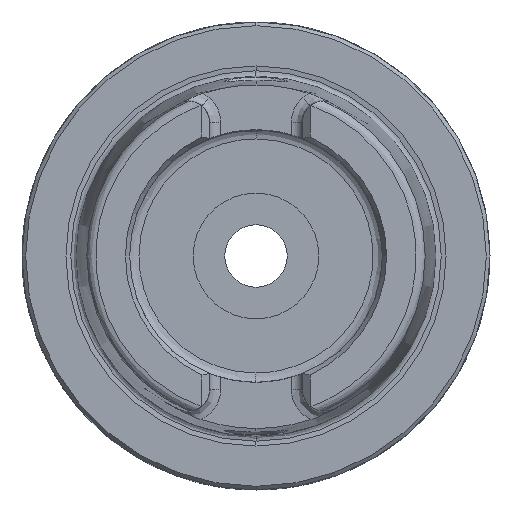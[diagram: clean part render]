
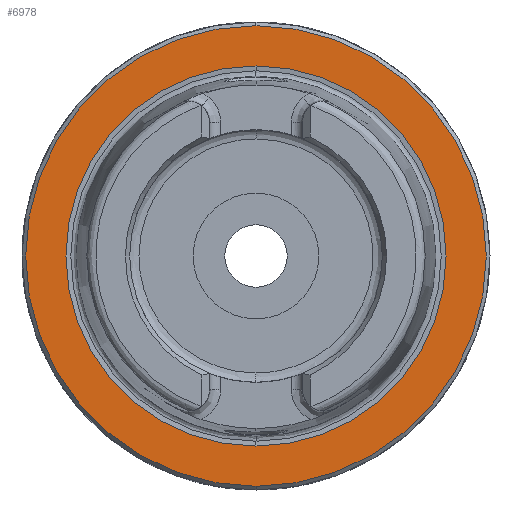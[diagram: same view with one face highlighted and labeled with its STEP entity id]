
A CAD part, left-side view. The second image highlights one B-rep face of the part: STEP entity #6978.
In plain terms, the highlighted planar face has unit normal (-1, 0, 0).
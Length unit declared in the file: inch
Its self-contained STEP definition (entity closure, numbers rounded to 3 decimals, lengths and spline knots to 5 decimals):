
#297 = DIRECTION ( 'NONE',  ( 0., 0., -1. ) ) ;
#309 = VERTEX_POINT ( 'NONE', #1434 ) ;
#518 = DIRECTION ( 'NONE',  ( 0., 0., 1. ) ) ;
#583 = VERTEX_POINT ( 'NONE', #7700 ) ;
#829 = EDGE_LOOP ( 'NONE', ( #6043, #7931 ) ) ;
#1434 = CARTESIAN_POINT ( 'NONE',  ( 0., 0., -1.22047 ) ) ;
#1543 = CARTESIAN_POINT ( 'NONE',  ( 0., 0., 0. ) ) ;
#1670 = VERTEX_POINT ( 'NONE', #7046 ) ;
#2147 = FACE_OUTER_BOUND ( 'NONE', #829, .T. ) ;
#2170 = EDGE_CURVE ( 'NONE', #583, #1670, #6171, .T. ) ;
#2897 = EDGE_CURVE ( 'NONE', #5135, #309, #7412, .T. ) ;
#3158 = ORIENTED_EDGE ( 'NONE', *, *, #2170, .T. ) ;
#3740 = CIRCLE ( 'NONE', #8362, 1.0074 ) ;
#4269 = DIRECTION ( 'NONE',  ( 1., 0., 0. ) ) ;
#4518 = EDGE_CURVE ( 'NONE', #1670, #583, #3740, .T. ) ;
#4648 = DIRECTION ( 'NONE',  ( 0., 0., -1. ) ) ;
#4816 = DIRECTION ( 'NONE',  ( 1., 0., 0. ) ) ;
#4947 = AXIS2_PLACEMENT_3D ( 'NONE', #7420, #4816, #297 ) ;
#5135 = VERTEX_POINT ( 'NONE', #6002 ) ;
#5256 = CARTESIAN_POINT ( 'NONE',  ( 0., 0., 0. ) ) ;
#5456 = EDGE_CURVE ( 'NONE', #309, #5135, #5497, .T. ) ;
#5497 = CIRCLE ( 'NONE', #4947, 1.22047 ) ;
#5726 = DIRECTION ( 'NONE',  ( 1., 0., 0. ) ) ;
#6002 = CARTESIAN_POINT ( 'NONE',  ( 0., 0., 1.22047 ) ) ;
#6043 = ORIENTED_EDGE ( 'NONE', *, *, #5456, .F. ) ;
#6144 = DIRECTION ( 'NONE',  ( 0., 0., 1. ) ) ;
#6171 = CIRCLE ( 'NONE', #6461, 1.0074 ) ;
#6200 = EDGE_LOOP ( 'NONE', ( #3158, #6274 ) ) ;
#6274 = ORIENTED_EDGE ( 'NONE', *, *, #4518, .T. ) ;
#6461 = AXIS2_PLACEMENT_3D ( 'NONE', #6877, #5726, #518 ) ;
#6635 = CARTESIAN_POINT ( 'NONE',  ( 0., 1.22047, 0. ) ) ;
#6674 = FACE_BOUND ( 'NONE', #6200, .T. ) ;
#6717 = DIRECTION ( 'NONE',  ( -1., 0., 0. ) ) ;
#6877 = CARTESIAN_POINT ( 'NONE',  ( 0., 0., 0. ) ) ;
#6978 = ADVANCED_FACE ( 'NONE', ( #6674, #2147 ), #7356, .T. ) ;
#7046 = CARTESIAN_POINT ( 'NONE',  ( 0., 0., -1.0074 ) ) ;
#7277 = AXIS2_PLACEMENT_3D ( 'NONE', #5256, #7849, #4648 ) ;
#7321 = AXIS2_PLACEMENT_3D ( 'NONE', #6635, #6717, #8018 ) ;
#7356 = PLANE ( 'NONE',  #7321 ) ;
#7412 = CIRCLE ( 'NONE', #7277, 1.22047 ) ;
#7420 = CARTESIAN_POINT ( 'NONE',  ( 0., 0., 0. ) ) ;
#7700 = CARTESIAN_POINT ( 'NONE',  ( 0., 0., 1.0074 ) ) ;
#7849 = DIRECTION ( 'NONE',  ( 1., 0., 0. ) ) ;
#7931 = ORIENTED_EDGE ( 'NONE', *, *, #2897, .F. ) ;
#8018 = DIRECTION ( 'NONE',  ( 0., 0., 1. ) ) ;
#8362 = AXIS2_PLACEMENT_3D ( 'NONE', #1543, #4269, #6144 ) ;
